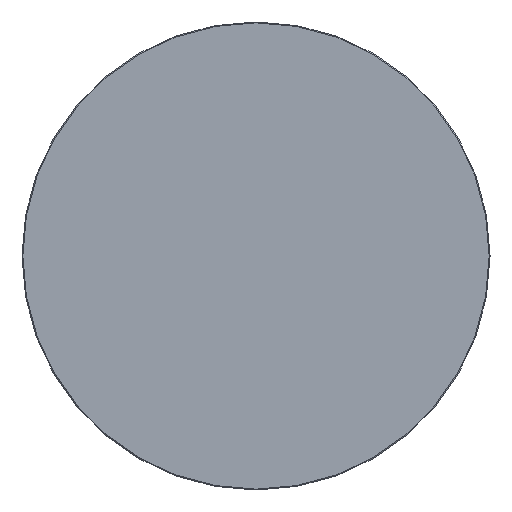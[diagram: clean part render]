
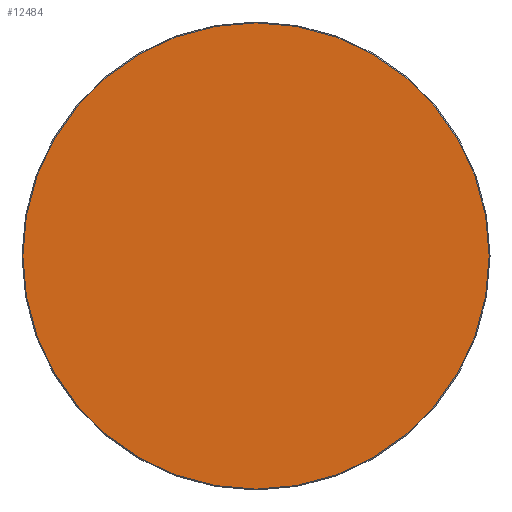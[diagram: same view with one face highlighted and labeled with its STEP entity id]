
A CAD part, top view. The second image highlights one B-rep face of the part: STEP entity #12484.
In plain terms, the highlighted planar face has unit normal (0, 0, 1).
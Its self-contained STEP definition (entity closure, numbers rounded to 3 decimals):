
#12409=CARTESIAN_POINT('',(0.,0.,20.));
#12410=DIRECTION('',(1.,0.,0.));
#12411=DIRECTION('',(0.,0.,1.));
#12412=AXIS2_PLACEMENT_3D('',#12409,#12411,#12410);
#12413=PLANE('',#12412);
#12414=CARTESIAN_POINT('',(-0.5,-398.5,20.));
#12415=VERTEX_POINT('',#12414);
#12416=CARTESIAN_POINT('',(0.5,-398.5,20.));
#12417=VERTEX_POINT('',#12416);
#12418=CARTESIAN_POINT('',(-0.5,-398.5,20.));
#12419=DIRECTION('',(1.,0.,0.));
#12420=VECTOR('',#12419,1.);
#12421=LINE('',#12418,#12420);
#12422=EDGE_CURVE('',#12415,#12417,#12421,.T.);
#12423=ORIENTED_EDGE('E105',*,*,#12422,.T.);
#12424=CARTESIAN_POINT('',(398.5,-0.5,20.));
#12425=VERTEX_POINT('',#12424);
#12426=CARTESIAN_POINT('',(0.5,-0.5,20.));
#12427=DIRECTION('',(0.,-1.,0.));
#12428=DIRECTION('',(0.,0.,1.));
#12429=AXIS2_PLACEMENT_3D('',#12426,#12428,#12427);
#12430=CIRCLE('',#12429,398.);
#12431=EDGE_CURVE('',#12417,#12425,#12430,.T.);
#12432=ORIENTED_EDGE('E107',*,*,#12431,.T.);
#12433=CARTESIAN_POINT('',(398.5,0.5,20.));
#12434=VERTEX_POINT('',#12433);
#12435=CARTESIAN_POINT('',(398.5,-0.5,20.));
#12436=DIRECTION('',(0.,1.,0.));
#12437=VECTOR('',#12436,1.);
#12438=LINE('',#12435,#12437);
#12439=EDGE_CURVE('',#12425,#12434,#12438,.T.);
#12440=ORIENTED_EDGE('E109',*,*,#12439,.T.);
#12441=CARTESIAN_POINT('',(0.5,398.5,20.));
#12442=VERTEX_POINT('',#12441);
#12443=CARTESIAN_POINT('',(0.5,0.5,20.));
#12444=DIRECTION('',(1.,0.,0.));
#12445=DIRECTION('',(0.,0.,1.));
#12446=AXIS2_PLACEMENT_3D('',#12443,#12445,#12444);
#12447=CIRCLE('',#12446,398.);
#12448=EDGE_CURVE('',#12434,#12442,#12447,.T.);
#12449=ORIENTED_EDGE('E111',*,*,#12448,.T.);
#12450=CARTESIAN_POINT('',(-0.5,398.5,20.));
#12451=VERTEX_POINT('',#12450);
#12452=CARTESIAN_POINT('',(0.5,398.5,20.));
#12453=DIRECTION('',(-1.,0.,0.));
#12454=VECTOR('',#12453,1.);
#12455=LINE('',#12452,#12454);
#12456=EDGE_CURVE('',#12442,#12451,#12455,.T.);
#12457=ORIENTED_EDGE('E113',*,*,#12456,.T.);
#12458=CARTESIAN_POINT('',(-398.5,0.5,20.));
#12459=VERTEX_POINT('',#12458);
#12460=CARTESIAN_POINT('',(-0.5,0.5,20.));
#12461=DIRECTION('',(0.,1.,0.));
#12462=DIRECTION('',(0.,0.,1.));
#12463=AXIS2_PLACEMENT_3D('',#12460,#12462,#12461);
#12464=CIRCLE('',#12463,398.);
#12465=EDGE_CURVE('',#12451,#12459,#12464,.T.);
#12466=ORIENTED_EDGE('E115',*,*,#12465,.T.);
#12467=CARTESIAN_POINT('',(-398.5,-0.5,20.));
#12468=VERTEX_POINT('',#12467);
#12469=CARTESIAN_POINT('',(-398.5,0.5,20.));
#12470=DIRECTION('',(0.,-1.,0.));
#12471=VECTOR('',#12470,1.);
#12472=LINE('',#12469,#12471);
#12473=EDGE_CURVE('',#12459,#12468,#12472,.T.);
#12474=ORIENTED_EDGE('E117',*,*,#12473,.T.);
#12475=CARTESIAN_POINT('',(-0.5,-0.5,20.));
#12476=DIRECTION('',(-1.,0.,0.));
#12477=DIRECTION('',(-0.,0.,1.));
#12478=AXIS2_PLACEMENT_3D('',#12475,#12477,#12476);
#12479=CIRCLE('',#12478,398.);
#12480=EDGE_CURVE('',#12468,#12415,#12479,.T.);
#12481=ORIENTED_EDGE('E119',*,*,#12480,.T.);
#12482=EDGE_LOOP('',(#12423,#12432,#12440,#12449,#12457,#12466,#12474,#12481));
#12483=FACE_OUTER_BOUND('',#12482,.T.);
#12484=ADVANCED_FACE('F2',(#12483),#12413,.T.);
